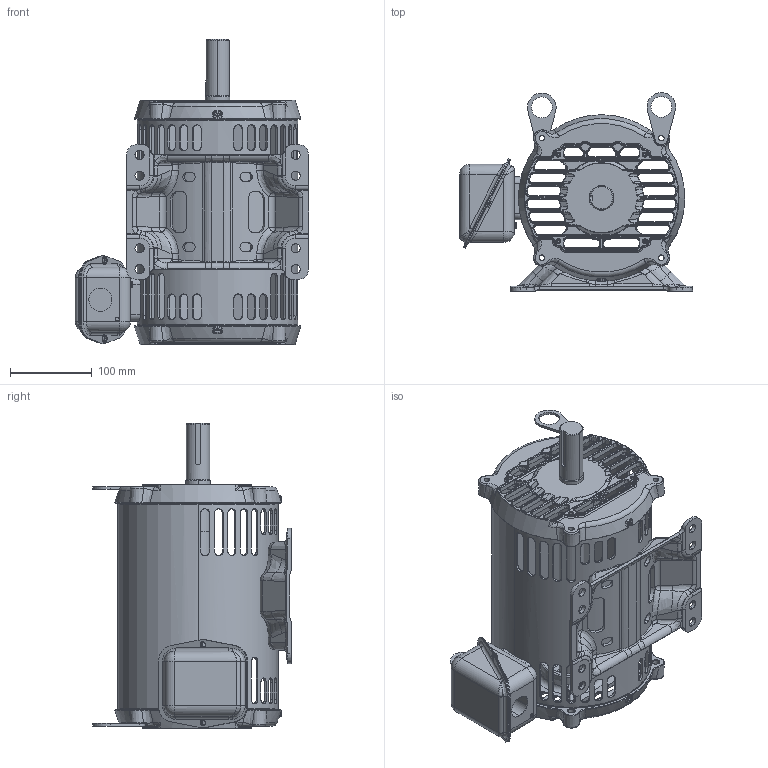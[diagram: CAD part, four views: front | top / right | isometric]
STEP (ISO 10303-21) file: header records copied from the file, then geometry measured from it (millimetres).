
FILE_DESCRIPTION((''),'2;1');
FILE_NAME('184_1025_ASM','2018-04-25T',('EMD2341'),('Nidec Motor Corporation'),'CREO PARAMETRIC BY PTC INC, 2017170','CREO PARAMETRIC BY PTC INC, 2017170','');
FILE_SCHEMA(('CONFIG_CONTROL_DESIGN'));
Length unit declared in the file: inch
Products named in the file (16): 2050331_AF0; 0380228; 2034250-BKT_AF1; 2033996-002_AF1; 2026213_ASM; 0541983; 0027197; 2038638; 2026212-BKT_AF0; 2033996-002_AF2; 2026214_ASM; 0362988; 0390418; 0390928; 0390417; 184_1025_ASM
Assembly tree (16 placements, depth 3):
  184_1025_ASM
    2050331_AF0
    0380228
    2026213_ASM
      2034250-BKT_AF1
      2033996-002_AF1
    0541983
    0027197
    2038638
    2026214_ASM
      2026212-BKT_AF0
      2033996-002_AF2
    0362988  x2
    0390418
    0390928
    0390417
Bounding box: 284.68 x 242.27 x 372.7 mm (x, y, z)
Volume: 1333248.1 mm3; surface area: 716676 mm2
Topology: 16 solids, 16 shells, 3441 faces, 8436 edges, 5006 vertices
Faces by surface type: bspline 1198, cylinder 830, plane 592, cone 389, torus 372, sphere 60
Entity records: 169162 total; most frequent: CARTESIAN_POINT 96441, ORIENTED_EDGE 16770, DIRECTION 13089, EDGE_CURVE 8385, AXIS2_PLACEMENT_3D 5420, VERTEX_POINT 4990, EDGE_LOOP 3661, FACE_OUTER_BOUND 3431
